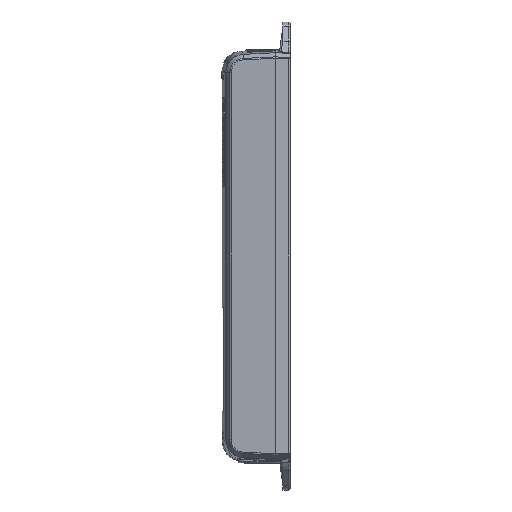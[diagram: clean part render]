
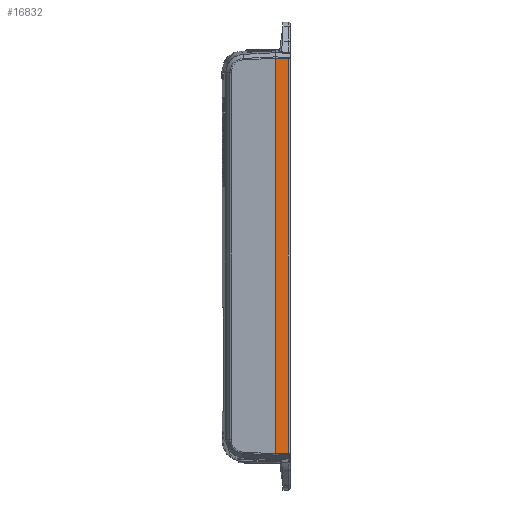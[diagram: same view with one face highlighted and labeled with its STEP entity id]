
A CAD part, left-side view. The second image highlights one B-rep face of the part: STEP entity #16832.
In plain terms, the highlighted planar face has unit normal (-0.999, -0.052, 0).
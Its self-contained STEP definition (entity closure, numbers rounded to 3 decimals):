
#279 = CARTESIAN_POINT ( 'NONE',  ( -63.117, 7.305, 115.509 ) ) ;
#910 = VERTEX_POINT ( 'NONE', #36278 ) ;
#1385 = VERTEX_POINT ( 'NONE', #21887 ) ;
#1962 = DIRECTION ( 'NONE',  ( 0.052, -0.999, 0. ) ) ;
#2028 = CARTESIAN_POINT ( 'NONE',  ( -63.053, 6.088, -115.45 ) ) ;
#2058 = B_SPLINE_CURVE_WITH_KNOTS ( 'NONE', 3,
 ( #38485, #12969, #25861, #6616, #29088, #9875, #32343, #13104, #35563, #16319, #38764, #19567, #279 ),
 .UNSPECIFIED., .F., .F.,
 ( 4, 3, 3, 3, 4 ),
 ( 0., 0.001, 0.003, 0.006, 0.008 ),
 .UNSPECIFIED. ) ;
#2453 = ORIENTED_EDGE ( 'NONE', *, *, #15437, .T. ) ;
#4294 = ORIENTED_EDGE ( 'NONE', *, *, #22752, .T. ) ;
#4923 = FACE_OUTER_BOUND ( 'NONE', #8990, .T. ) ;
#5280 = CARTESIAN_POINT ( 'NONE',  ( -63.117, 7.305, -115.509 ) ) ;
#6616 = CARTESIAN_POINT ( 'NONE',  ( -62.765, 0.58, 115.185 ) ) ;
#6932 = AXIS2_PLACEMENT_3D ( 'NONE', #17994, #21214, #1962 ) ;
#7142 = EDGE_CURVE ( 'NONE', #19996, #21065, #19389, .T. ) ;
#8522 = CARTESIAN_POINT ( 'NONE',  ( -62.979, 4.663, -115.382 ) ) ;
#8990 = EDGE_LOOP ( 'NONE', ( #2453, #4294, #18442, #9884 ) ) ;
#9875 = CARTESIAN_POINT ( 'NONE',  ( -62.85, 2.213, 115.264 ) ) ;
#9884 = ORIENTED_EDGE ( 'NONE', *, *, #7142, .T. ) ;
#11640 = CARTESIAN_POINT ( 'NONE',  ( -62.716, -0.347, -115.141 ) ) ;
#11740 = CARTESIAN_POINT ( 'NONE',  ( -62.893, 3.03, -115.303 ) ) ;
#12969 = CARTESIAN_POINT ( 'NONE',  ( -62.732, -0.038, 115.155 ) ) ;
#13104 = CARTESIAN_POINT ( 'NONE',  ( -62.936, 3.846, 115.342 ) ) ;
#14920 = VECTOR ( 'NONE', #26446, 1000. ) ;
#14954 = CARTESIAN_POINT ( 'NONE',  ( -62.807, 1.396, -115.224 ) ) ;
#15437 = EDGE_CURVE ( 'NONE', #21065, #1385, #41621, .T. ) ;
#16319 = CARTESIAN_POINT ( 'NONE',  ( -63.021, 5.48, 115.421 ) ) ;
#16832 = ADVANCED_FACE ( 'NONE', ( #4923 ), #33854, .T. ) ;
#17994 = CARTESIAN_POINT ( 'NONE',  ( -63.117, 7.305, 118.5 ) ) ;
#18185 = CARTESIAN_POINT ( 'NONE',  ( -62.748, 0.271, -115.17 ) ) ;
#18442 = ORIENTED_EDGE ( 'NONE', *, *, #41494, .F. ) ;
#19389 = B_SPLINE_CURVE_WITH_KNOTS ( 'NONE', 3,
 ( #5280, #24506, #2028, #27726, #8522, #30973, #11740, #34185, #14954, #37406, #18185, #40630, #21411 ),
 .UNSPECIFIED., .F., .F.,
 ( 4, 3, 3, 3, 4 ),
 ( 0., 0.002, 0.004, 0.007, 0.008 ),
 .UNSPECIFIED. ) ;
#19567 = CARTESIAN_POINT ( 'NONE',  ( -63.085, 6.696, 115.479 ) ) ;
#19996 = VERTEX_POINT ( 'NONE', #31251 ) ;
#21065 = VERTEX_POINT ( 'NONE', #11640 ) ;
#21214 = DIRECTION ( 'NONE',  ( -0.999, -0.052, 0. ) ) ;
#21411 = CARTESIAN_POINT ( 'NONE',  ( -62.716, -0.347, -115.141 ) ) ;
#21887 = CARTESIAN_POINT ( 'NONE',  ( -62.716, -0.347, 115.141 ) ) ;
#22752 = EDGE_CURVE ( 'NONE', #1385, #910, #2058, .T. ) ;
#24506 = CARTESIAN_POINT ( 'NONE',  ( -63.085, 6.696, -115.479 ) ) ;
#25861 = CARTESIAN_POINT ( 'NONE',  ( -62.748, 0.271, 115.17 ) ) ;
#26446 = DIRECTION ( 'NONE',  ( 0., 0., 1. ) ) ;
#27726 = CARTESIAN_POINT ( 'NONE',  ( -63.021, 5.48, -115.421 ) ) ;
#29088 = CARTESIAN_POINT ( 'NONE',  ( -62.807, 1.396, 115.224 ) ) ;
#30973 = CARTESIAN_POINT ( 'NONE',  ( -62.936, 3.846, -115.342 ) ) ;
#31251 = CARTESIAN_POINT ( 'NONE',  ( -63.117, 7.305, -115.509 ) ) ;
#32343 = CARTESIAN_POINT ( 'NONE',  ( -62.893, 3.03, 115.303 ) ) ;
#33020 = DIRECTION ( 'NONE',  ( 0., 0., 1. ) ) ;
#33119 = VECTOR ( 'NONE', #33020, 1000. ) ;
#33854 = PLANE ( 'NONE',  #6932 ) ;
#34185 = CARTESIAN_POINT ( 'NONE',  ( -62.85, 2.213, -115.264 ) ) ;
#35563 = CARTESIAN_POINT ( 'NONE',  ( -62.979, 4.663, 115.382 ) ) ;
#36023 = CARTESIAN_POINT ( 'NONE',  ( -63.117, 7.305, 118.5 ) ) ;
#36278 = CARTESIAN_POINT ( 'NONE',  ( -63.117, 7.305, 115.509 ) ) ;
#37406 = CARTESIAN_POINT ( 'NONE',  ( -62.765, 0.58, -115.185 ) ) ;
#38485 = CARTESIAN_POINT ( 'NONE',  ( -62.716, -0.347, 115.141 ) ) ;
#38764 = CARTESIAN_POINT ( 'NONE',  ( -63.053, 6.088, 115.45 ) ) ;
#39317 = CARTESIAN_POINT ( 'NONE',  ( -62.716, -0.347, 118.5 ) ) ;
#40630 = CARTESIAN_POINT ( 'NONE',  ( -62.732, -0.038, -115.155 ) ) ;
#41494 = EDGE_CURVE ( 'NONE', #19996, #910, #41515, .T. ) ;
#41515 = LINE ( 'NONE', #36023, #14920 ) ;
#41621 = LINE ( 'NONE', #39317, #33119 ) ;
